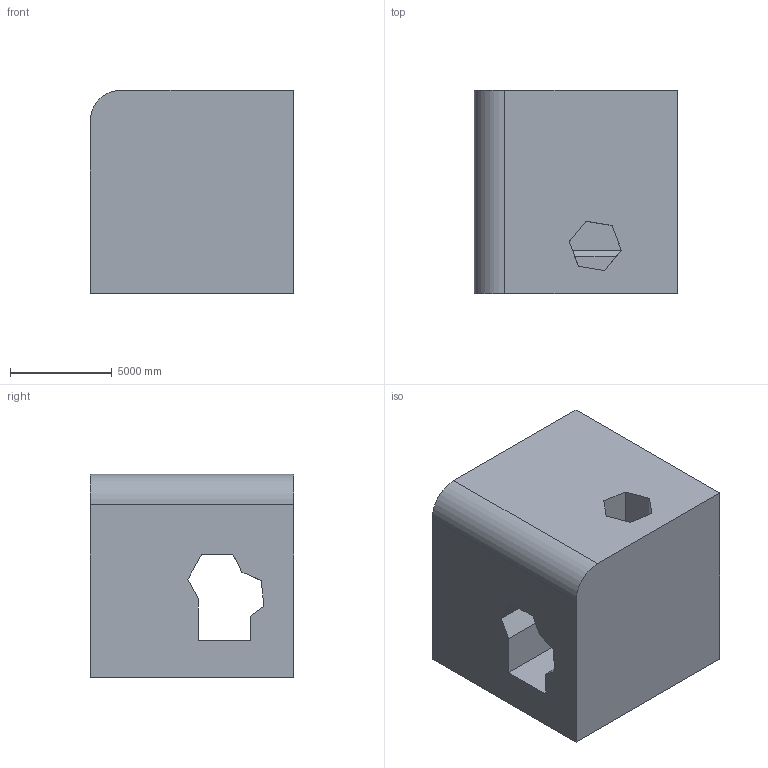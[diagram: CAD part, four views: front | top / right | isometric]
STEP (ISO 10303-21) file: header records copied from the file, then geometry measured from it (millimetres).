
FILE_DESCRIPTION (( 'STEP AP203' ), '1' );
FILE_NAME ('112.STEP', '2022-08-31T11:38:56', ( 'user' ), ( '' ), 'SwSTEP 2.0', 'SolidWorks 2021', '' );
FILE_SCHEMA (( 'CONFIG_CONTROL_DESIGN' ));
Length unit declared in the file: centimetre
Products named in the file (1): 112
Bounding box: 10000 x 10000 x 10000 mm (x, y, z)
Volume: 851889391134.3 mm3; surface area: 747163032.1 mm2
Topology: 1 solids, 1 shells, 33 faces, 90 edges, 60 vertices
Faces by surface type: plane 28, cylinder 5
Entity records: 1119 total; most frequent: CARTESIAN_POINT 184, ORIENTED_EDGE 180, DIRECTION 168, EDGE_CURVE 90, VECTOR 80, LINE 80, VERTEX_POINT 60, AXIS2_PLACEMENT_3D 44
